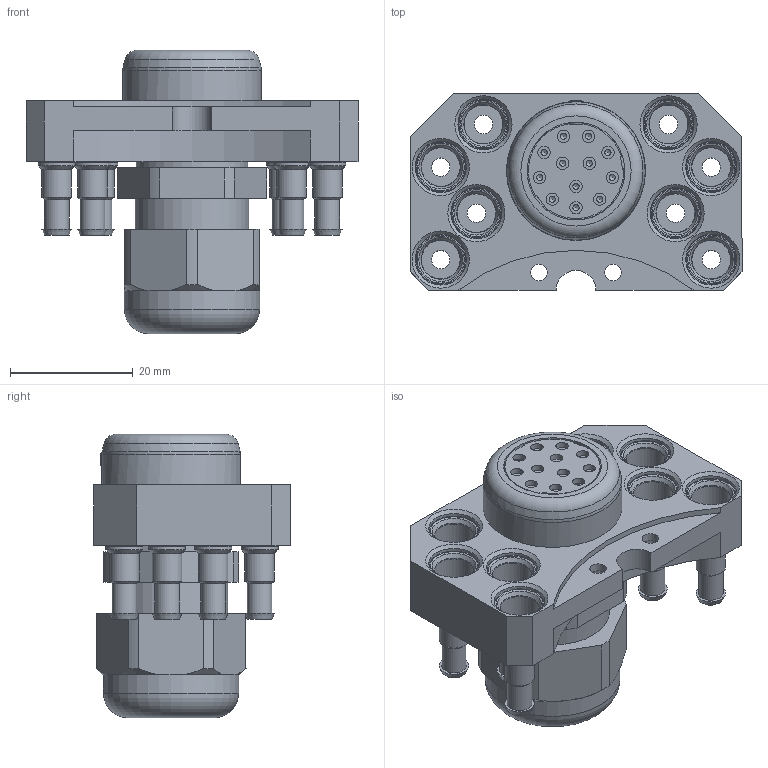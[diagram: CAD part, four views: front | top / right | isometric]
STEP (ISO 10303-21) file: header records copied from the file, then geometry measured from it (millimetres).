
FILE_DESCRIPTION((''),'2;1');
FILE_NAME('T:\CAD\Standard\Daten\Datenbank STANDARD 00\3 MEK\4 - 3D-CAD-Daten MEK 063-160\MEK063\step-Daten\G-MEK063-U-8Pk4-1E12.stp','2012-12-05T16:47:06',('Yvonne'),(''),'Autodesk Inventor 2011','Autodesk Inventor 2011','');
FILE_SCHEMA(('AUTOMOTIVE_DESIGN { 1 0 10303 214 1 1 1 1 }'));
Length unit declared in the file: millimetre
Products named in the file (1): Bauteil15
Bounding box: 54 x 32 x 46.1 mm (x, y, z)
Volume: 23129.5 mm3; surface area: 18140.5 mm2
Topology: 1 solids, 1 shells, 464 faces, 1053 edges, 637 vertices
Faces by surface type: cylinder 177, plane 167, cone 83, torus 37
Full cylindrical faces by diameter (mm): 1 x12, 1.6 x12, 2 x26, 2.7 x2, 3 x8, 4 x8, 4.8 x8, 5 x2, 5.5 x8, 5.9 x8, 6 x8, 6.3 x8, 8 x8, 8.3 x8, 10 x1, 14 x1, 15.9 x1, 17.1 x1, 18.1 x1, 18.5 x1, 22 x1, 22.6 x1
Entity records: 13291 total; most frequent: CARTESIAN_POINT 3303, DIRECTION 2075, ORIENTED_EDGE 1592, AXIS2_PLACEMENT_3D 893, EDGE_CURVE 796, EDGE_LOOP 777, VERTEX_POINT 588, FACE_OUTER_BOUND 464
